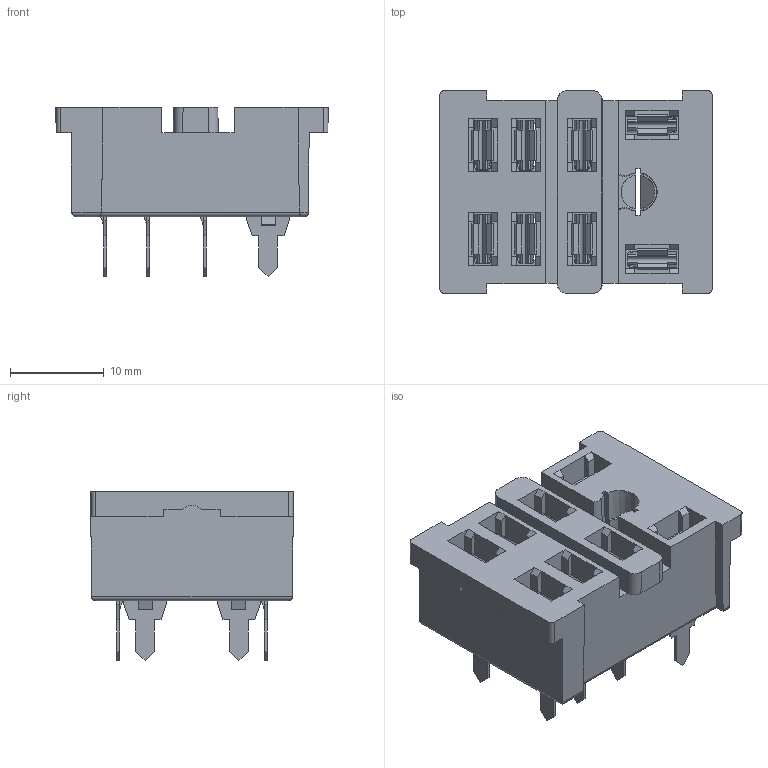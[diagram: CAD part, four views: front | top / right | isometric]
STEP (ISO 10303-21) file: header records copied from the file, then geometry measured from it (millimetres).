
FILE_DESCRIPTION(/* description */ (''),/* implementation_level */ '2;1');
FILE_NAME(/* name */ '13F-2Z-A2.stp',/* time_stamp */ '2019-03-20T14:27:23+08:00',/* author */ (''),/* organization */ (''),/* preprocessor_version */ 'ST-DEVELOPER v16.7',/* originating_system */ 'SIEMENS PLM Software NX 12.0',/* authorisation */ '');
FILE_SCHEMA (('AUTOMOTIVE_DESIGN { 1 0 10303 214 3 1 1 1 }'));
Length unit declared in the file: millimetre
Products named in the file (4): HT7.730.100; HT7.730.051; HT7.810.012; 13F-2Z-A2
Assembly tree (10 placements, depth 3):
  13F-2Z-A2
    HT7.810.012
      HT7.730.100
    HT7.730.051  x8
Bounding box: 29 x 21.6 x 18.1 mm (x, y, z)
Volume: 4574.6 mm3; surface area: 5736.9 mm2
Topology: 9 solids, 9 shells, 989 faces, 2622 edges, 1668 vertices
Faces by surface type: plane 730, cylinder 194, bspline 16, extrusion 16, sphere 16, cone 9, torus 8
Entity records: 15104 total; most frequent: CARTESIAN_POINT 2310, ORIENTED_EDGE 2136, DIRECTION 1969, EDGE_CURVE 1068, VECTOR 923, LINE 921, VERTEX_POINT 689, AXIS2_PLACEMENT_3D 523
